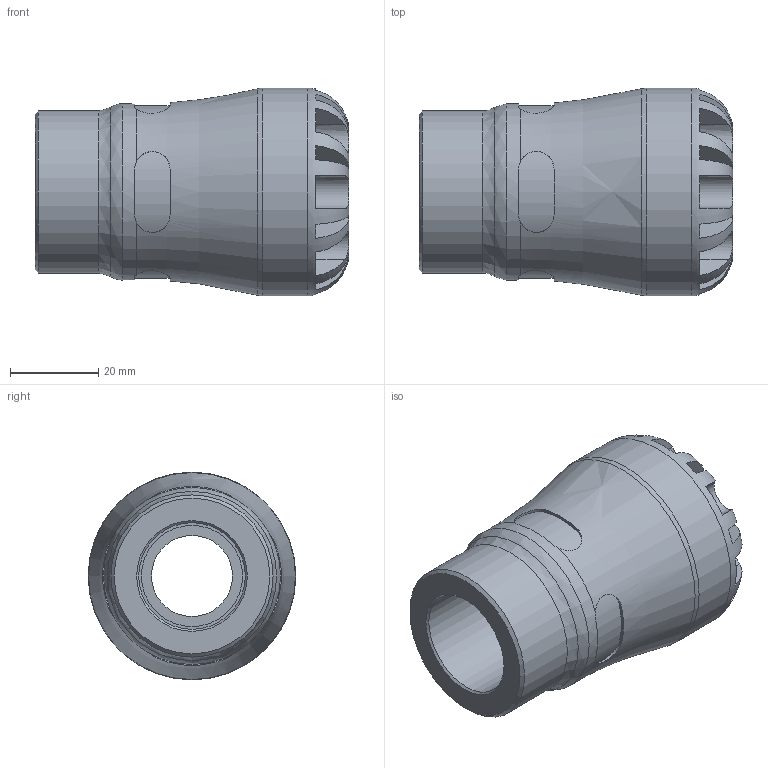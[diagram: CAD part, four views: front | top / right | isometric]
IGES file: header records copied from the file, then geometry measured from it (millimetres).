
Global section: file name: 1003C7022007.ipt; native system: Autodesk Inventor 2015; preprocessor: unknown; author: KIM; date: 20170122.102526; units: millimetre
Bounding box: 71 x 47 x 47 mm (x, y, z)
Volume: 64935.9 mm3; surface area: 17749.4 mm2
Topology: 1 solids, 1 shells, 104 faces, 279 edges, 180 vertices
Faces by surface type: plane 61, revolution 27, cylinder 15, cone 1
Full cylindrical faces by diameter (mm): 36.66 x1, 39.95 x1, 47 x1
